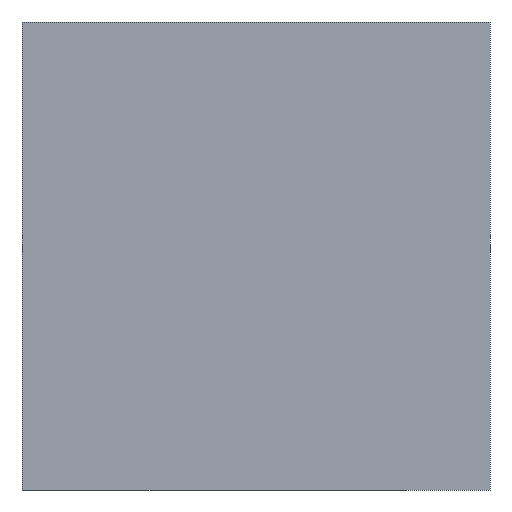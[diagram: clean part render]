
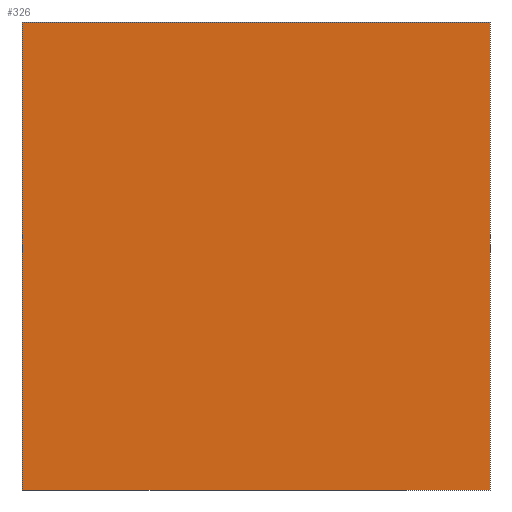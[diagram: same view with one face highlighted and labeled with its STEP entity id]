
A CAD part, left-side view. The second image highlights one B-rep face of the part: STEP entity #326.
In plain terms, the highlighted planar face has unit normal (-1, 0, 0).
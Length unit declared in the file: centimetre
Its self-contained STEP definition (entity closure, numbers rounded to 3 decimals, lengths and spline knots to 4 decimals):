
#5 = VERTEX_POINT ( 'NONE', #374 ) ;
#18 = VECTOR ( 'NONE', #208, 100. ) ;
#23 = EDGE_CURVE ( 'NONE', #5, #153, #273, .T. ) ;
#32 = DIRECTION ( 'NONE',  ( 0., -1., 0. ) ) ;
#50 = DIRECTION ( 'NONE',  ( 1., 0., 0. ) ) ;
#53 = VECTOR ( 'NONE', #32, 100. ) ;
#58 = VECTOR ( 'NONE', #367, 100. ) ;
#67 = ORIENTED_EDGE ( 'NONE', *, *, #300, .T. ) ;
#68 = AXIS2_PLACEMENT_3D ( 'NONE', #278, #50, #77 ) ;
#73 = ORIENTED_EDGE ( 'NONE', *, *, #23, .F. ) ;
#77 = DIRECTION ( 'NONE',  ( 0., 0., -1. ) ) ;
#82 = FACE_OUTER_BOUND ( 'NONE', #306, .T. ) ;
#96 = LINE ( 'NONE', #441, #58 ) ;
#104 = CARTESIAN_POINT ( 'NONE',  ( 0., 1000., 0. ) ) ;
#131 = CARTESIAN_POINT ( 'NONE',  ( 0., 0., 1000. ) ) ;
#153 = VERTEX_POINT ( 'NONE', #131 ) ;
#162 = EDGE_CURVE ( 'NONE', #153, #284, #96, .T. ) ;
#181 = CARTESIAN_POINT ( 'NONE',  ( 0., 0., 0. ) ) ;
#195 = EDGE_CURVE ( 'NONE', #379, #284, #264, .T. ) ;
#208 = DIRECTION ( 'NONE',  ( 0., 0., -1. ) ) ;
#215 = LINE ( 'NONE', #383, #18 ) ;
#264 = LINE ( 'NONE', #368, #53 ) ;
#273 = LINE ( 'NONE', #412, #301 ) ;
#278 = CARTESIAN_POINT ( 'NONE',  ( 0., 1000., 1000. ) ) ;
#284 = VERTEX_POINT ( 'NONE', #181 ) ;
#300 = EDGE_CURVE ( 'NONE', #5, #379, #215, .T. ) ;
#301 = VECTOR ( 'NONE', #416, 100. ) ;
#306 = EDGE_LOOP ( 'NONE', ( #391, #430, #73, #67 ) ) ;
#326 = ADVANCED_FACE ( 'NONE', ( #82 ), #349, .F. ) ;
#349 = PLANE ( 'NONE',  #68 ) ;
#367 = DIRECTION ( 'NONE',  ( 0., 0., -1. ) ) ;
#368 = CARTESIAN_POINT ( 'NONE',  ( 0., 1000., 0. ) ) ;
#374 = CARTESIAN_POINT ( 'NONE',  ( 0., 1000., 1000. ) ) ;
#379 = VERTEX_POINT ( 'NONE', #104 ) ;
#383 = CARTESIAN_POINT ( 'NONE',  ( 0., 1000., 1000. ) ) ;
#391 = ORIENTED_EDGE ( 'NONE', *, *, #195, .T. ) ;
#412 = CARTESIAN_POINT ( 'NONE',  ( 0., 1000., 1000. ) ) ;
#416 = DIRECTION ( 'NONE',  ( 0., -1., 0. ) ) ;
#430 = ORIENTED_EDGE ( 'NONE', *, *, #162, .F. ) ;
#441 = CARTESIAN_POINT ( 'NONE',  ( 0., 0., 1000. ) ) ;
